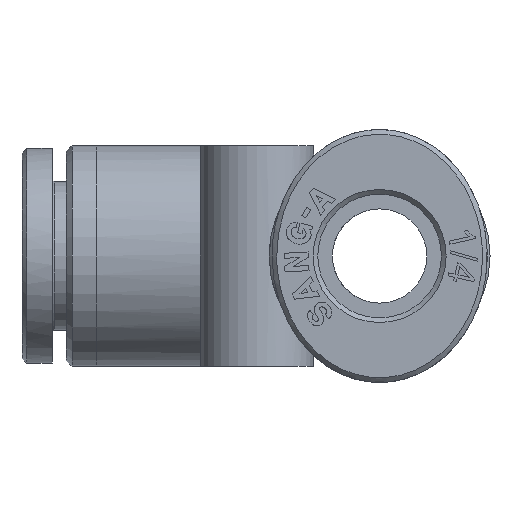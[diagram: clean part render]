
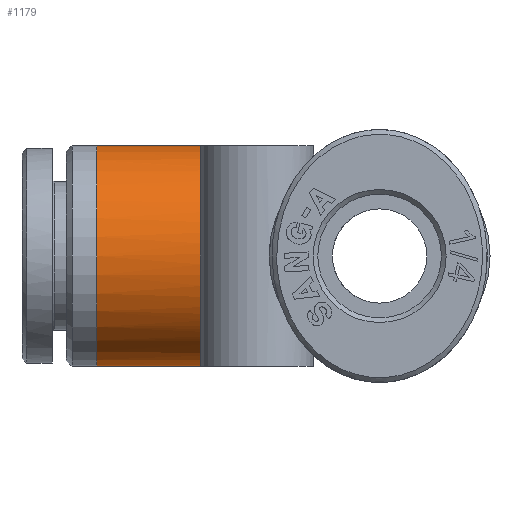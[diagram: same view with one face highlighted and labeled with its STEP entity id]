
A CAD part, left-side view. The second image highlights one B-rep face of the part: STEP entity #1179.
In plain terms, the highlighted cylindrical face has radius 5.85 mm (diameter 11.7 mm), a full revolution.
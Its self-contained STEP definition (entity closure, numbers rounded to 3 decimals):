
#520=CARTESIAN_POINT('',(18.512,6.765,-4.679));
#521=VERTEX_POINT('',#520);
#535=CARTESIAN_POINT('',(18.512,6.765,4.679));
#536=VERTEX_POINT('',#535);
#537=CARTESIAN_POINT('',(18.512,6.765,4.679));
#538=CARTESIAN_POINT('',(18.531,6.985,4.664));
#539=CARTESIAN_POINT('',(18.577,7.209,4.63));
#540=CARTESIAN_POINT('',(18.74,7.717,4.5));
#541=CARTESIAN_POINT('',(18.882,7.989,4.381));
#542=CARTESIAN_POINT('',(19.138,8.359,4.137));
#543=CARTESIAN_POINT('',(19.263,8.507,4.011));
#544=CARTESIAN_POINT('',(19.517,8.758,3.723));
#545=CARTESIAN_POINT('',(19.645,8.862,3.561));
#546=CARTESIAN_POINT('',(20.075,9.169,2.96));
#547=CARTESIAN_POINT('',(20.367,9.285,2.41));
#548=CARTESIAN_POINT('',(20.754,9.413,1.224));
#549=CARTESIAN_POINT('',(20.85,9.429,0.589));
#550=CARTESIAN_POINT('',(20.85,9.429,0.0));
#551=CARTESIAN_POINT('',(20.85,9.429,-0.589));
#552=CARTESIAN_POINT('',(20.754,9.413,-1.224));
#553=CARTESIAN_POINT('',(20.367,9.285,-2.41));
#554=CARTESIAN_POINT('',(20.075,9.169,-2.96));
#555=CARTESIAN_POINT('',(19.645,8.862,-3.561));
#556=CARTESIAN_POINT('',(19.517,8.758,-3.723));
#557=CARTESIAN_POINT('',(19.263,8.507,-4.011));
#558=CARTESIAN_POINT('',(19.138,8.359,-4.137));
#559=CARTESIAN_POINT('',(18.882,7.989,-4.381));
#560=CARTESIAN_POINT('',(18.74,7.717,-4.5));
#561=CARTESIAN_POINT('',(18.577,7.209,-4.63));
#562=CARTESIAN_POINT('',(18.531,6.985,-4.664));
#563=CARTESIAN_POINT('',(18.512,6.765,-4.679));
#564=B_SPLINE_CURVE_WITH_KNOTS('',3,(#537,#538,#539,#540,#541,#542,#543,#544,#545,#546,#547,#548,#549,#550,#551,#552,#553,#554,#555,#556,#557,#558,#559,#560,#561,#562,#563),.UNSPECIFIED.,.F.,.U.,(4,2,2,2,2,2,3,2,2,2,2,2,4),(-0.635,-0.571,-0.48,-0.417,-0.354,-0.177,0.0,0.177,0.354,0.417,0.48,0.571,0.635),.UNSPECIFIED.);
#565=EDGE_CURVE('',#536,#521,#564,.T.);
#824=CARTESIAN_POINT('',(11.488,6.765,4.679));
#825=VERTEX_POINT('',#824);
#839=CARTESIAN_POINT('',(11.488,6.765,-4.679));
#840=VERTEX_POINT('',#839);
#841=CARTESIAN_POINT('',(11.488,6.765,-4.679));
#842=CARTESIAN_POINT('',(11.469,6.985,-4.664));
#843=CARTESIAN_POINT('',(11.423,7.209,-4.63));
#844=CARTESIAN_POINT('',(11.26,7.717,-4.5));
#845=CARTESIAN_POINT('',(11.118,7.989,-4.381));
#846=CARTESIAN_POINT('',(10.862,8.359,-4.137));
#847=CARTESIAN_POINT('',(10.737,8.507,-4.011));
#848=CARTESIAN_POINT('',(10.483,8.758,-3.723));
#849=CARTESIAN_POINT('',(10.355,8.862,-3.561));
#850=CARTESIAN_POINT('',(9.925,9.169,-2.96));
#851=CARTESIAN_POINT('',(9.633,9.285,-2.41));
#852=CARTESIAN_POINT('',(9.246,9.413,-1.224));
#853=CARTESIAN_POINT('',(9.15,9.429,-0.589));
#854=CARTESIAN_POINT('',(9.15,9.429,0.589));
#855=CARTESIAN_POINT('',(9.246,9.413,1.224));
#856=CARTESIAN_POINT('',(9.633,9.285,2.41));
#857=CARTESIAN_POINT('',(9.925,9.169,2.96));
#858=CARTESIAN_POINT('',(10.355,8.862,3.561));
#859=CARTESIAN_POINT('',(10.483,8.758,3.723));
#860=CARTESIAN_POINT('',(10.737,8.507,4.011));
#861=CARTESIAN_POINT('',(10.862,8.359,4.137));
#862=CARTESIAN_POINT('',(11.118,7.989,4.381));
#863=CARTESIAN_POINT('',(11.26,7.717,4.5));
#864=CARTESIAN_POINT('',(11.423,7.209,4.63));
#865=CARTESIAN_POINT('',(11.469,6.985,4.664));
#866=CARTESIAN_POINT('',(11.488,6.765,4.679));
#867=B_SPLINE_CURVE_WITH_KNOTS('',3,(#841,#842,#843,#844,#845,#846,#847,#848,#849,#850,#851,#852,#853,#854,#855,#856,#857,#858,#859,#860,#861,#862,#863,#864,#865,#866),.UNSPECIFIED.,.F.,.U.,(4,2,2,2,2,2,2,2,2,2,2,2,4),(0.687,0.752,0.842,0.906,0.969,1.146,1.323,1.499,1.676,1.739,1.803,1.893,1.958),.UNSPECIFIED.);
#868=EDGE_CURVE('',#840,#825,#867,.T.);
#1141=CARTESIAN_POINT('',(15.0,6.765,0.0));
#1142=DIRECTION('',(0.0,-1.0,0.0));
#1143=DIRECTION('',(-1.0,0.0,0.0));
#1144=AXIS2_PLACEMENT_3D('',#1141,#1142,#1143);
#1145=CIRCLE('',#1144,5.85);
#1146=EDGE_CURVE('',#840,#521,#1145,.T.);
#1151=CARTESIAN_POINT('',(15.0,10.7,0.0));
#1152=DIRECTION('',(0.,-1.0,0.0));
#1153=DIRECTION('',(1.0,0.0,0.0));
#1154=AXIS2_PLACEMENT_3D('',#1151,#1152,#1153);
#1155=CYLINDRICAL_SURFACE('',#1154,5.85);
#1156=CARTESIAN_POINT('',(20.85,15.,0.0));
#1157=VERTEX_POINT('',#1156);
#1158=CARTESIAN_POINT('',(15.0,15.,0.0));
#1159=DIRECTION('',(0.0,-1.0,0.0));
#1160=DIRECTION('',(1.0,0.0,0.0));
#1161=AXIS2_PLACEMENT_3D('',#1158,#1159,#1160);
#1162=CIRCLE('',#1161,5.85);
#1163=EDGE_CURVE('',#1157,#1157,#1162,.T.);
#1164=ORIENTED_EDGE('',*,*,#1163,.T.);
#1165=EDGE_LOOP('',(#1164));
#1166=FACE_OUTER_BOUND('',#1165,.T.);
#1167=ORIENTED_EDGE('',*,*,#565,.T.);
#1168=ORIENTED_EDGE('',*,*,#1146,.F.);
#1169=ORIENTED_EDGE('',*,*,#868,.T.);
#1170=CARTESIAN_POINT('',(15.0,6.765,0.0));
#1171=DIRECTION('',(0.0,-1.0,0.0));
#1172=DIRECTION('',(-1.0,0.0,0.0));
#1173=AXIS2_PLACEMENT_3D('',#1170,#1171,#1172);
#1174=CIRCLE('',#1173,5.85);
#1175=EDGE_CURVE('',#536,#825,#1174,.T.);
#1176=ORIENTED_EDGE('',*,*,#1175,.F.);
#1177=EDGE_LOOP('',(#1167,#1168,#1169,#1176));
#1178=FACE_BOUND('',#1177,.T.);
#1179=ADVANCED_FACE('',(#1166,#1178),#1155,.T.);
